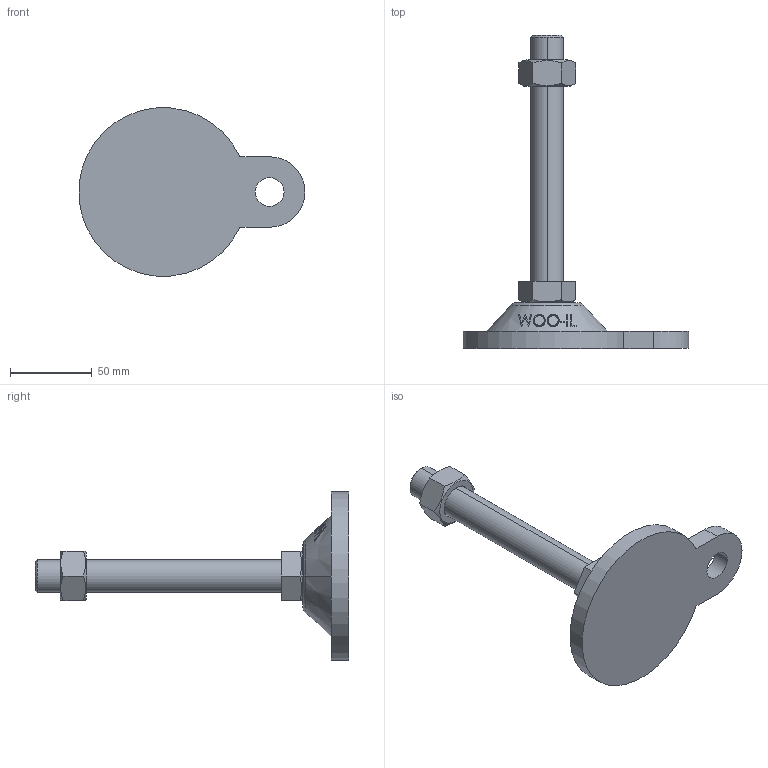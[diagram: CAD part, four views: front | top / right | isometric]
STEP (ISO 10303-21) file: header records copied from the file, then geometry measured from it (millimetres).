
FILE_DESCRIPTION (( 'STEP AP214' ), '1' );
FILE_NAME ('ARB103-M20-150.step', '2021-03-25T00:41:22', ( '' ), ( '' ), 'SwSTEP 2.0', 'SolidWorks 2019', '' );
FILE_SCHEMA (( 'AUTOMOTIVE_DESIGN' ));
Length unit declared in the file: millimetre
Products named in the file (2): ARB103-M20-150
Bounding box: 137.8 x 191 x 102.64 mm (x, y, z)
Volume: 210848.9 mm3; surface area: 40575.5 mm2
Topology: 3 solids, 3 shells, 97 faces, 233 edges, 152 vertices
Faces by surface type: plane 49, cone 22, bspline 16, cylinder 8, torus 2
Entity records: 4456 total; most frequent: CARTESIAN_POINT 2274, ORIENTED_EDGE 466, DIRECTION 375, EDGE_CURVE 233, VERTEX_POINT 152, AXIS2_PLACEMENT_3D 143, EDGE_LOOP 111, ADVANCED_FACE 97
